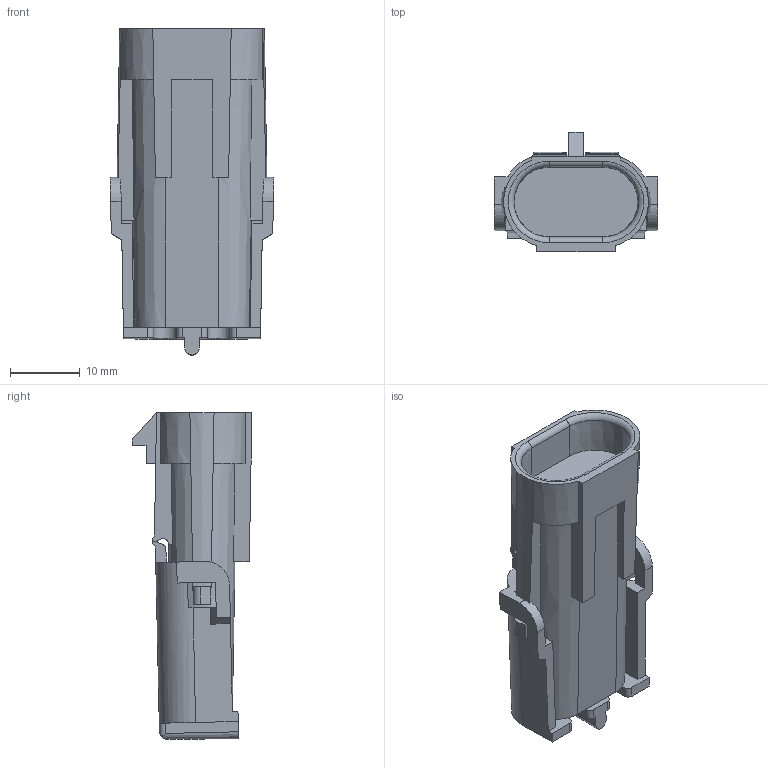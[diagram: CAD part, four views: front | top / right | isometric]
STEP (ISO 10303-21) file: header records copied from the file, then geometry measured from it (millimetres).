
FILE_DESCRIPTION(/* description */ (''),/* implementation_level */ '2;1');
FILE_NAME(/* name */ '12010973-ENV11_08-CONN.stp',/* time_stamp */ '2021-09-06T16:28:47+06:00',/* author */ (''),/* organization */ (''),/* preprocessor_version */ 'ST-DEVELOPER v16',/* originating_system */ 'SIEMENS PLM Software NX 11.0',/* authorisation */ '');
FILE_SCHEMA (('AP203_CONFIGURATION_CONTROLLED_3D_DESIGN_OF_MECHANICAL_PARTS_AND_ASSEMBLIES_MIM_LF { 1 0 10303 403 2 1 2}'));
Length unit declared in the file: millimetre
Products named in the file (1): hjcv4A68214C0bc6
Bounding box: 23.4 x 17.15 x 46.73 mm (x, y, z)
Volume: 7786.6 mm3; surface area: 5367.1 mm2
Topology: 2 solids, 2 shells, 150 faces, 428 edges, 279 vertices
Faces by surface type: plane 103, cylinder 34, cone 11, torus 2
Entity records: 5080 total; most frequent: CARTESIAN_POINT 1014, ORIENTED_EDGE 856, DIRECTION 807, EDGE_CURVE 428, LINE 295, VECTOR 295, VERTEX_POINT 279, AXIS2_PLACEMENT_3D 256
